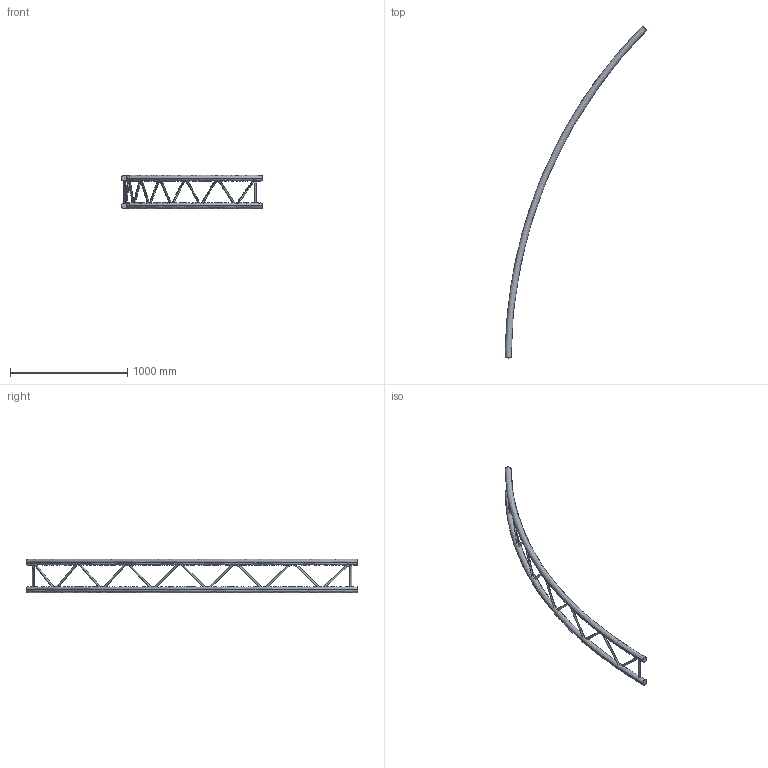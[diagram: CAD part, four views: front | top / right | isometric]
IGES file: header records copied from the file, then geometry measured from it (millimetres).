
Start section: SolidWorks IGES file using analytic representation for surfaces
Global section: file name: K:\BIBLIO\asd_biblio\EX290\Cercles\EXC290V\EXC29800V\EXC29800V.IGS; native system: SolidWorks 2009; preprocessor: SolidWorks 2009; author: des3; date: 091026.101842; units: millimetre
Bounding box: 1206.93 x 2828.43 x 287 mm (x, y, z)
Surface area: 1193366.7 mm2 (no closed solid volume)
Topology: 0 solids, 0 shells, 50 faces, 1909 edges, 1909 vertices
Faces by surface type: revolution 28, bspline 22
